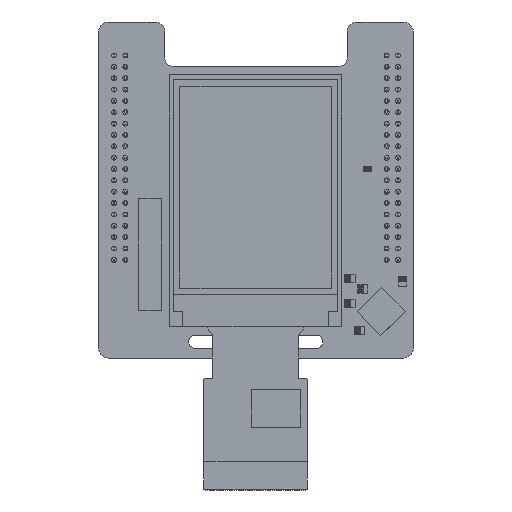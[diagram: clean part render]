
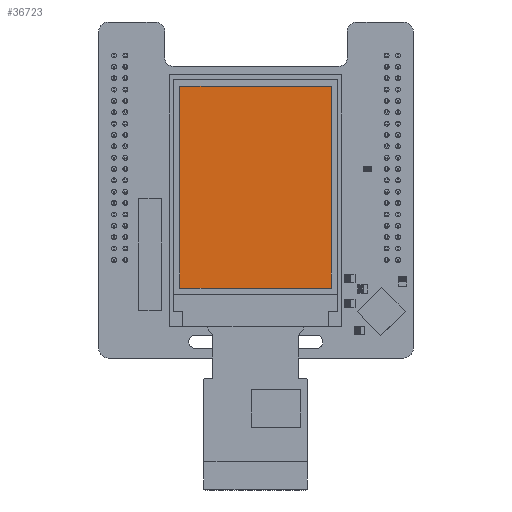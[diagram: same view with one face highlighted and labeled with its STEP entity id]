
A CAD part, top view. The second image highlights one B-rep face of the part: STEP entity #36723.
In plain terms, the highlighted planar face has unit normal (0, 0, 1).
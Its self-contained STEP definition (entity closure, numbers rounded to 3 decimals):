
#36594 = VERTEX_POINT('',#36595);
#36595 = CARTESIAN_POINT('',(-16.92,22.56,1.8));
#36601 = EDGE_CURVE('',#36594,#36602,#36604,.T.);
#36602 = VERTEX_POINT('',#36603);
#36603 = CARTESIAN_POINT('',(-16.92,-22.56,1.8));
#36604 = LINE('',#36605,#36606);
#36605 = CARTESIAN_POINT('',(-16.92,22.56,1.8));
#36606 = VECTOR('',#36607,1.);
#36607 = DIRECTION('',(0.,-1.,0.));
#36632 = EDGE_CURVE('',#36602,#36633,#36635,.T.);
#36633 = VERTEX_POINT('',#36634);
#36634 = CARTESIAN_POINT('',(16.92,-22.56,1.8));
#36635 = LINE('',#36636,#36637);
#36636 = CARTESIAN_POINT('',(-16.92,-22.56,1.8));
#36637 = VECTOR('',#36638,1.);
#36638 = DIRECTION('',(1.,0.,0.));
#36663 = EDGE_CURVE('',#36633,#36664,#36666,.T.);
#36664 = VERTEX_POINT('',#36665);
#36665 = CARTESIAN_POINT('',(16.92,22.56,1.8));
#36666 = LINE('',#36667,#36668);
#36667 = CARTESIAN_POINT('',(16.92,-22.56,1.8));
#36668 = VECTOR('',#36669,1.);
#36669 = DIRECTION('',(0.,1.,0.));
#36694 = EDGE_CURVE('',#36664,#36594,#36695,.T.);
#36695 = LINE('',#36696,#36697);
#36696 = CARTESIAN_POINT('',(16.92,22.56,1.8));
#36697 = VECTOR('',#36698,1.);
#36698 = DIRECTION('',(-1.,0.,0.));
#36723 = ADVANCED_FACE('',(#36724),#36730,.F.);
#36724 = FACE_BOUND('',#36725,.T.);
#36725 = EDGE_LOOP('',(#36726,#36727,#36728,#36729));
#36726 = ORIENTED_EDGE('',*,*,#36601,.T.);
#36727 = ORIENTED_EDGE('',*,*,#36632,.T.);
#36728 = ORIENTED_EDGE('',*,*,#36663,.T.);
#36729 = ORIENTED_EDGE('',*,*,#36694,.T.);
#36730 = PLANE('',#36731);
#36731 = AXIS2_PLACEMENT_3D('',#36732,#36733,#36734);
#36732 = CARTESIAN_POINT('',(-16.92,22.56,1.8));
#36733 = DIRECTION('',(0.,0.,-1.));
#36734 = DIRECTION('',(-1.,0.,0.));
